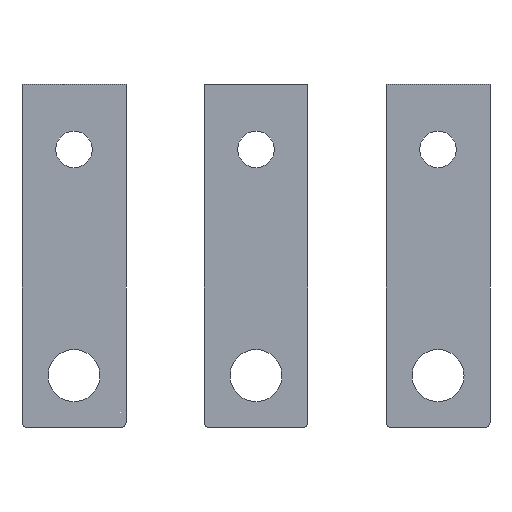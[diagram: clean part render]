
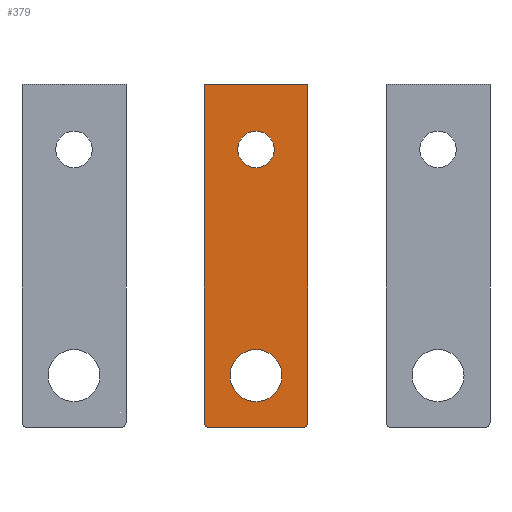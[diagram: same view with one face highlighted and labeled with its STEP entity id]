
A CAD part, front view. The second image highlights one B-rep face of the part: STEP entity #379.
In plain terms, the highlighted planar face has unit normal (0, -1, 0).
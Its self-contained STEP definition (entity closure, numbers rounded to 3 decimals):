
#1 = ORIENTED_EDGE ( 'NONE', *, *, #134, .F. ) ;
#3 = CARTESIAN_POINT ( 'NONE',  ( 1., 0., -65. ) ) ;
#5 = LINE ( 'NONE', #410, #52 ) ;
#8 = EDGE_LOOP ( 'NONE', ( #194, #56, #305, #446, #390, #1 ) ) ;
#11 = DIRECTION ( 'NONE',  ( 0., 0., 1. ) ) ;
#16 = AXIS2_PLACEMENT_3D ( 'NONE', #213, #211, #361 ) ;
#34 = CARTESIAN_POINT ( 'NONE',  ( 10., 0., -56. ) ) ;
#39 = VERTEX_POINT ( 'NONE', #288 ) ;
#50 = EDGE_LOOP ( 'NONE', ( #158, #226 ) ) ;
#52 = VECTOR ( 'NONE', #377, 1000. ) ;
#53 = DIRECTION ( 'NONE',  ( 0., 0., 1. ) ) ;
#56 = ORIENTED_EDGE ( 'NONE', *, *, #185, .T. ) ;
#61 = CARTESIAN_POINT ( 'NONE',  ( 0., 0., -65. ) ) ;
#62 = CARTESIAN_POINT ( 'NONE',  ( 19., 0., -66. ) ) ;
#64 = CARTESIAN_POINT ( 'NONE',  ( 20., 0., 0. ) ) ;
#73 = DIRECTION ( 'NONE',  ( 0., -1., 0. ) ) ;
#92 = EDGE_CURVE ( 'NONE', #240, #315, #165, .T. ) ;
#94 = DIRECTION ( 'NONE',  ( 0., 0., 1. ) ) ;
#114 = EDGE_CURVE ( 'NONE', #164, #39, #266, .T. ) ;
#116 = FACE_BOUND ( 'NONE', #50, .T. ) ;
#121 = ORIENTED_EDGE ( 'NONE', *, *, #92, .T. ) ;
#123 = DIRECTION ( 'NONE',  ( 0., 1., 0. ) ) ;
#126 = DIRECTION ( 'NONE',  ( 0., 1., 0. ) ) ;
#133 = DIRECTION ( 'NONE',  ( 0., 1., 0. ) ) ;
#134 = EDGE_CURVE ( 'NONE', #418, #223, #168, .T. ) ;
#142 = CARTESIAN_POINT ( 'NONE',  ( 10., 0., -12.5 ) ) ;
#144 = AXIS2_PLACEMENT_3D ( 'NONE', #445, #126, #53 ) ;
#157 = FACE_OUTER_BOUND ( 'NONE', #8, .T. ) ;
#158 = ORIENTED_EDGE ( 'NONE', *, *, #114, .T. ) ;
#159 = DIRECTION ( 'NONE',  ( 0., -1., 0. ) ) ;
#160 = VERTEX_POINT ( 'NONE', #61 ) ;
#163 = VERTEX_POINT ( 'NONE', #320 ) ;
#164 = VERTEX_POINT ( 'NONE', #455 ) ;
#165 = CIRCLE ( 'NONE', #405, 3.5 ) ;
#168 = LINE ( 'NONE', #64, #351 ) ;
#174 = EDGE_CURVE ( 'NONE', #443, #290, #394, .T. ) ;
#183 = CARTESIAN_POINT ( 'NONE',  ( 20., 0., -65. ) ) ;
#185 = EDGE_CURVE ( 'NONE', #160, #163, #456, .T. ) ;
#194 = ORIENTED_EDGE ( 'NONE', *, *, #199, .F. ) ;
#196 = CARTESIAN_POINT ( 'NONE',  ( 10., 0., -9. ) ) ;
#199 = EDGE_CURVE ( 'NONE', #160, #418, #5, .T. ) ;
#200 = DIRECTION ( 'NONE',  ( 0., 0., -1. ) ) ;
#202 = FACE_BOUND ( 'NONE', #339, .T. ) ;
#211 = DIRECTION ( 'NONE',  ( 0., -1., 0. ) ) ;
#213 = CARTESIAN_POINT ( 'NONE',  ( 19., 0., -65. ) ) ;
#218 = AXIS2_PLACEMENT_3D ( 'NONE', #34, #133, #94 ) ;
#223 = VERTEX_POINT ( 'NONE', #404 ) ;
#226 = ORIENTED_EDGE ( 'NONE', *, *, #413, .T. ) ;
#230 = PLANE ( 'NONE',  #439 ) ;
#234 = CARTESIAN_POINT ( 'NONE',  ( 0., 0., 0. ) ) ;
#235 = CIRCLE ( 'NONE', #367, 3.5 ) ;
#240 = VERTEX_POINT ( 'NONE', #297 ) ;
#244 = AXIS2_PLACEMENT_3D ( 'NONE', #3, #73, #337 ) ;
#249 = DIRECTION ( 'NONE',  ( 0., 1., 0. ) ) ;
#264 = DIRECTION ( 'NONE',  ( -1., 0., 0. ) ) ;
#266 = CIRCLE ( 'NONE', #218, 5. ) ;
#281 = CARTESIAN_POINT ( 'NONE',  ( 20., 0., -66. ) ) ;
#288 = CARTESIAN_POINT ( 'NONE',  ( 10., 0., -51. ) ) ;
#290 = VERTEX_POINT ( 'NONE', #183 ) ;
#297 = CARTESIAN_POINT ( 'NONE',  ( 10., 0., -16. ) ) ;
#302 = CARTESIAN_POINT ( 'NONE',  ( 0., 0., -66. ) ) ;
#305 = ORIENTED_EDGE ( 'NONE', *, *, #321, .F. ) ;
#312 = CARTESIAN_POINT ( 'NONE',  ( 10., 0., -12.5 ) ) ;
#315 = VERTEX_POINT ( 'NONE', #196 ) ;
#318 = DIRECTION ( 'NONE',  ( 1., 0., 0. ) ) ;
#320 = CARTESIAN_POINT ( 'NONE',  ( 1., 0., -66. ) ) ;
#321 = EDGE_CURVE ( 'NONE', #443, #163, #389, .T. ) ;
#322 = LINE ( 'NONE', #281, #426 ) ;
#337 = DIRECTION ( 'NONE',  ( 0., 0., -1. ) ) ;
#339 = EDGE_LOOP ( 'NONE', ( #121, #398 ) ) ;
#351 = VECTOR ( 'NONE', #318, 1000. ) ;
#361 = DIRECTION ( 'NONE',  ( 0., 0., -1. ) ) ;
#367 = AXIS2_PLACEMENT_3D ( 'NONE', #312, #123, #11 ) ;
#368 = CIRCLE ( 'NONE', #144, 5. ) ;
#377 = DIRECTION ( 'NONE',  ( 0., 0., 1. ) ) ;
#379 = ADVANCED_FACE ( 'NONE', ( #202, #157, #116 ), #230, .T. ) ;
#384 = EDGE_CURVE ( 'NONE', #315, #240, #235, .T. ) ;
#389 = LINE ( 'NONE', #302, #444 ) ;
#390 = ORIENTED_EDGE ( 'NONE', *, *, #393, .F. ) ;
#393 = EDGE_CURVE ( 'NONE', #223, #290, #322, .T. ) ;
#394 = CIRCLE ( 'NONE', #16, 1. ) ;
#395 = DIRECTION ( 'NONE',  ( 0., 0., -1. ) ) ;
#398 = ORIENTED_EDGE ( 'NONE', *, *, #384, .T. ) ;
#404 = CARTESIAN_POINT ( 'NONE',  ( 20., 0., 0. ) ) ;
#405 = AXIS2_PLACEMENT_3D ( 'NONE', #142, #249, #428 ) ;
#410 = CARTESIAN_POINT ( 'NONE',  ( 0., 0., 0. ) ) ;
#413 = EDGE_CURVE ( 'NONE', #39, #164, #368, .T. ) ;
#417 = CARTESIAN_POINT ( 'NONE',  ( 0., 0., 0. ) ) ;
#418 = VERTEX_POINT ( 'NONE', #417 ) ;
#426 = VECTOR ( 'NONE', #395, 1000. ) ;
#428 = DIRECTION ( 'NONE',  ( 0., 0., 1. ) ) ;
#439 = AXIS2_PLACEMENT_3D ( 'NONE', #234, #159, #200 ) ;
#443 = VERTEX_POINT ( 'NONE', #62 ) ;
#444 = VECTOR ( 'NONE', #264, 1000. ) ;
#445 = CARTESIAN_POINT ( 'NONE',  ( 10., 0., -56. ) ) ;
#446 = ORIENTED_EDGE ( 'NONE', *, *, #174, .T. ) ;
#455 = CARTESIAN_POINT ( 'NONE',  ( 10., 0., -61. ) ) ;
#456 = CIRCLE ( 'NONE', #244, 1. ) ;
